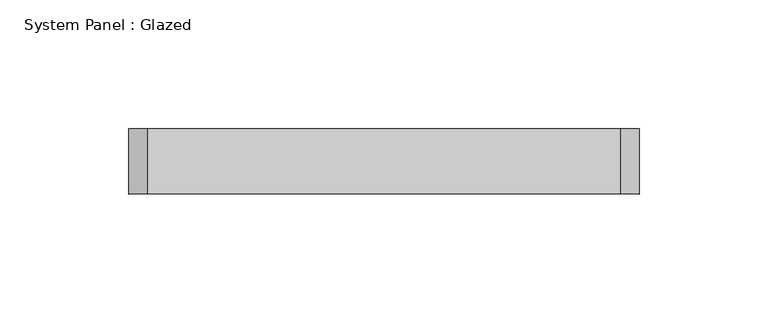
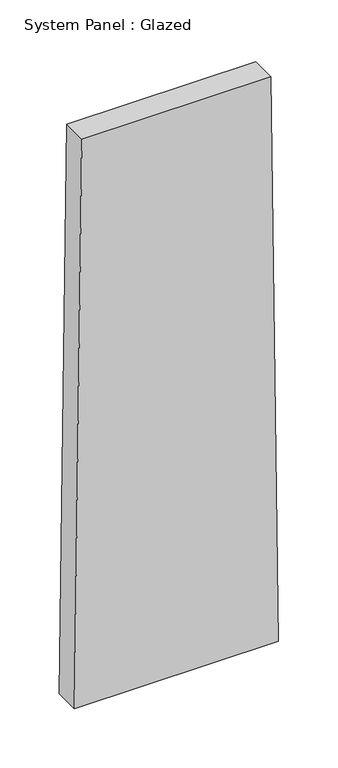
"""IFC4 building model written with IfcOpenShell, lengths in millimetres: plate geometry, System Panel : Glazed."""

from ifc_helpers import new_model, si_unit, frame, origin, place, context, project, spatial, polyline, outline, extrude, source, transform, mapped, element, save


def system_panel_glazed_9a08d2db(model_context):
    return source(origin(), model_context, "Body", "SweptSolid", [
        extrude(outline(polyline([(0.0, -99.3785733), (0.0, 99.3785733), (584.1536758, 92.1766553), (584.1536758, -92.1766553), (0.0, -99.3785733)])), frame((0.0, -44.45, 0.0), z_axis=(0.0, 1.0, 0.0), x_axis=(0.0, 0.0, 1.0)), (0.0, 0.0, 1.0), 25.4),
    ])


if __name__ == "__main__":
    model = new_model("IFC4")
    model_context = context("Model", 3, world=origin())
    ifc_project = project(units=[si_unit("LENGTHUNIT", "METRE", prefix="MILLI")], contexts=[model_context])
    site = spatial("IfcSite", under=ifc_project)
    building = spatial("IfcBuilding", under=site)
    placement = place(None, origin())
    system_panel_glazed_shape = system_panel_glazed_9a08d2db(model_context)
    element("IfcPlate", 1, ObjectType="System Panel : Glazed", at=placement, inside=building, context=model_context, shape_type="MappedRepresentation", body=[
        mapped(system_panel_glazed_shape, transform((0.0, 0.0, 0.0), x_axis=(1.0, 0.0, 0.0), y_axis=(0.0, 1.0, 0.0), z_axis=(0.0, 0.0, 1.0))),
    ])
    save(model, "model.ifc")
